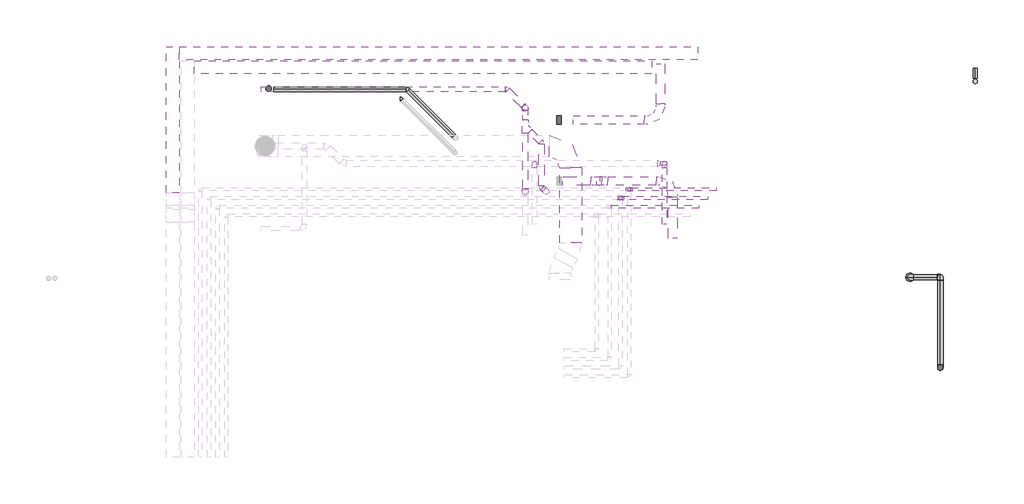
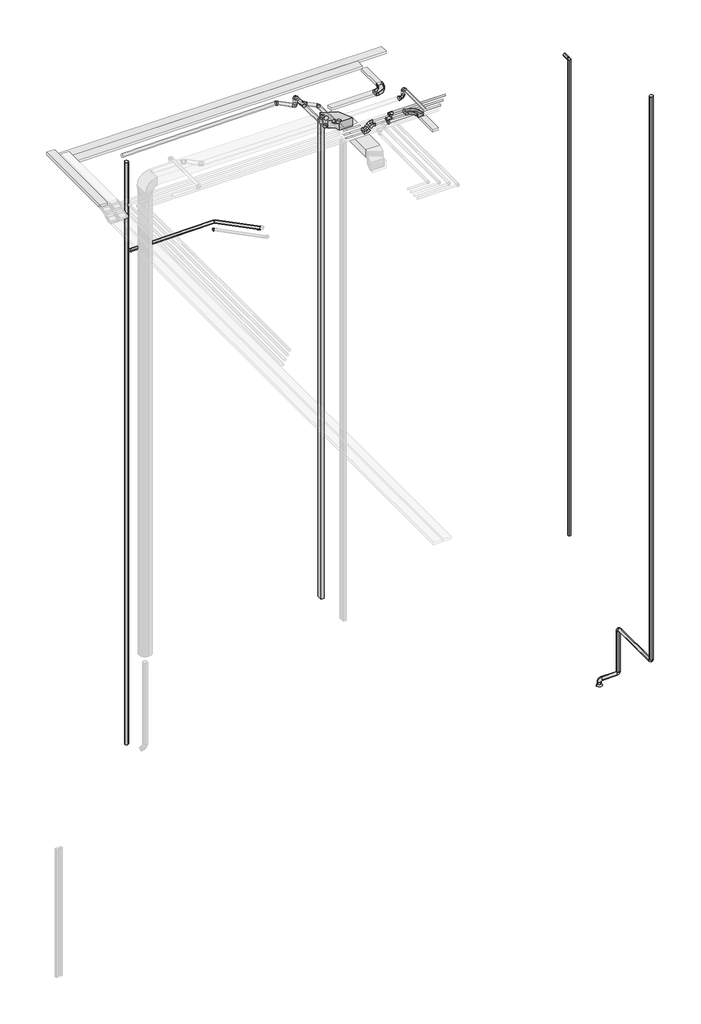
# One storey, part 5 of 5: 23 pipe segments, 19 pipe fittings, 10 cable carrier segments, 5 duct fittings, 4 cable carrier fittings, 3 duct segments.
"""IFC4 building model written with IfcOpenShell, lengths in millimetres."""

from ifc_helpers import new_model, si_unit, point, frame, frame_2d, origin, place, context, project, spatial, polyline, circle_curve, trimmed, segment, composite_curve, outline, extrude, transform, mapped, element, save
from ifc_brep_helpers import plane_surface, cylinder_surface, advanced_brep
from components import m_codo_horizontal_de_canal_el_01cafb92, m_codo_vertical_exterior_de_canal_sf_2009c7b2, m_codo_vertical_interior_de_canal_sf_1a39cf6d, duct_fitting_dce10068, m_codo_rectangular_radio_ext_1_w_abe20169, m_codo_redondo_ext_1_d_85067ab4, pipe_fitting_8e92d537, pipe_fitting_1b8f7a22, pipe_fitting_911ec8aa, pipe_fitting_7b861d32, pipe_fitting_67d104e7, pipe_fitting_3a68447e, pipe_fitting_550a3bf4, pipe_fitting_252a5053, pipe_fitting_9ffe5904, pipe_fitting_d40dc35a, pipe_fitting_c1e2db54, pipe_fitting_de21bee5, t_soldadura_a_enchufe_ff252817

model = new_model("IFC4")

# Units and contexts
model_context = context("Model", 3, world=origin())
ifc_project = project(units=[si_unit("LENGTHUNIT", "METRE", prefix="MILLI")], contexts=[model_context])

# Site, building, storey
site = spatial("IfcSite", under=ifc_project)
building = spatial("IfcBuilding", under=site)
storey = spatial("IfcBuildingStorey", under=building, Name="Nivell 06 P06_PP", Elevation=29910.0)

# Cable carrier fittings
placement = place(None, origin())
m_codo_horizontal_de_canal_el_shape = m_codo_horizontal_de_canal_el_01cafb92(model_context)
element("IfcCableCarrierFitting", 1, ObjectType="M_Codo horizontal de canal : EL", at=placement, inside=storey, context=model_context, shape_type="MappedRepresentation", body=[
    mapped(m_codo_horizontal_de_canal_el_shape, transform((16260.4560007, 7993.9729991, 32720.0), x_axis=(1.0, 0.0, 0.0), y_axis=(0.0, 1.0, 0.0), z_axis=(0.0, 0.0, 1.0))),
])
element("IfcCableCarrierFitting", 2, ObjectType="M_Codo horizontal de canal : SF", at=placement, inside=storey, context=model_context, shape_type="MappedRepresentation", body=[
    mapped(m_codo_horizontal_de_canal_el_shape, transform((16540.4560007, 6585.5467988, 32720.0), x_axis=(0.0, 1.0, 0.0), y_axis=(-1.0, 0.0, 0.0), z_axis=(0.0, 0.0, 1.0))),
])
m_codo_vertical_exterior_de_canal_sf_shape = m_codo_vertical_exterior_de_canal_sf_2009c7b2(model_context)
element("IfcCableCarrierFitting", 3, ObjectType="M_Codo vertical exterior de canal : SF", at=placement, inside=storey, context=model_context, shape_type="MappedRepresentation", body=[
    mapped(m_codo_vertical_exterior_de_canal_sf_shape, transform((14940.4560007, 6585.5467988, 32720.0), x_axis=(-1.0, 0.0, 0.0), y_axis=(0.0, 0.0, -1.0), z_axis=(0.0, -1.0, 0.0))),
])
m_codo_vertical_interior_de_canal_sf_shape = m_codo_vertical_interior_de_canal_sf_1a39cf6d(model_context)
element("IfcCableCarrierFitting", 4, ObjectType="M_Codo vertical interior de canal : SF", at=placement, inside=storey, context=model_context, shape_type="MappedRepresentation", body=[
    mapped(m_codo_vertical_interior_de_canal_sf_shape, transform((14749.5371698, 6585.5467988, 32529.0811691), x_axis=(-0.707106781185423, 0.0, -0.7071067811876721), y_axis=(-0.7071067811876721, 0.0, 0.707106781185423), z_axis=(0.0, 1.0, 0.0))),
])

# Cable carrier segments
element("IfcCableCarrierSegment", 5, ObjectType="EL", at=placement, inside=storey, context=model_context, shape_type="SweptSolid", body=[
    extrude(outline(polyline([(17114.9442475, 9685.9660196), (17114.9442475, 9385.9660196), (5158.2381883, 9385.9660196), (5158.2381883, 9685.9660196), (17114.9442475, 9685.9660196)])), frame((0.0, 0.0, 32960.0), z_axis=(0.0, 0.0, 1.0), x_axis=(1.0, 0.0, 0.0)), (0.0, 0.0, 1.0), 100.0),
])
element("IfcCableCarrierSegment", 6, ObjectType="EL", at=placement, inside=storey, context=model_context, shape_type="SweptSolid", body=[
    extrude(outline(polyline([(5507.0671065, 9056.732053), (5507.0671065, 9356.732053), (16057.0671065, 9356.732053), (16057.0671065, 9056.732053), (5507.0671065, 9056.732053)])), frame((0.0, 0.0, 32960.0), z_axis=(0.0, 0.0, 1.0), x_axis=(1.0, 0.0, 0.0)), (0.0, 0.0, 1.0), 100.0),
])
element("IfcCableCarrierSegment", 7, ObjectType="EL", at=placement, inside=storey, context=model_context, shape_type="SweptSolid", body=[
    extrude(outline(polyline([(13970.4560007, 8093.9729991), (13970.4560007, 7893.9729991), (13870.4560007, 7893.9729991), (13870.4560007, 8093.9729991), (13970.4560007, 8093.9729991)])), frame((0.0, 0.0, 13920.0), z_axis=(0.0, 0.0, 1.0), x_axis=(1.0, 0.0, 0.0)), (0.0, 0.0, 1.0), 18475.0),
])
element("IfcCableCarrierSegment", 8, ObjectType="EL", at=placement, inside=storey, context=model_context, shape_type="SweptSolid", body=[
    extrude(outline(polyline([(14245.4560007, 7893.9729991), (14245.4560007, 8093.9729991), (15885.4560007, 8093.9729991), (15885.4560007, 7893.9729991), (14245.4560007, 7893.9729991)])), frame((0.0, 0.0, 32670.0), z_axis=(0.0, 0.0, 1.0), x_axis=(1.0, 0.0, 0.0)), (0.0, 0.0, 1.0), 100.0),
])
element("IfcCableCarrierSegment", 9, ObjectType="EL", at=placement, inside=storey, context=model_context, shape_type="SweptSolid", body=[
    extrude(outline(polyline([(16360.4560007, 8368.9729991), (16160.4560007, 8368.9729991), (16160.4560007, 9293.9729991), (16360.4560007, 9293.9729991), (16360.4560007, 8368.9729991)])), frame((0.0, 0.0, 32670.0), z_axis=(0.0, 0.0, 1.0), x_axis=(1.0, 0.0, 0.0)), (0.0, 0.0, 1.0), 100.0),
])
element("IfcCableCarrierSegment", 10, ObjectType="EL", at=placement, inside=storey, context=model_context, shape_type="SweptSolid", body=[
    extrude(outline(polyline([(4858.2381883, 9685.9660196), (5158.2381883, 9685.9660196), (5158.2381883, 6318.3981673), (4858.2381883, 6318.3981673), (4858.2381883, 9685.9660196)])), frame((0.0, 0.0, 33160.0), z_axis=(0.0, 0.0, 1.0), x_axis=(1.0, 0.0, 0.0)), (0.0, 0.0, 1.0), 100.0),
])
element("IfcCableCarrierSegment", 11, ObjectType="SF", at=placement, inside=storey, context=model_context, shape_type="SweptSolid", body=[
    extrude(outline(polyline([(16165.4560007, 6685.5467988), (16165.4560007, 6485.5467988), (15040.3088145, 6485.5467988), (15040.3088145, 6685.5467988), (16165.4560007, 6685.5467988)])), frame((0.0, 0.0, 32670.0), z_axis=(0.0, 0.0, 1.0), x_axis=(1.0, 0.0, 0.0)), (0.0, 0.0, 1.0), 100.0),
])
element("IfcCableCarrierSegment", 12, ObjectType="SF", at=placement, inside=storey, context=model_context, shape_type="SweptSolid", body=[
    extrude(outline(polyline([(16640.4560007, 5265.5467988), (16440.4560007, 5265.5467988), (16440.4560007, 6210.5467988), (16640.4560007, 6210.5467988), (16640.4560007, 5265.5467988)])), frame((0.0, 0.0, 32670.0), z_axis=(0.0, 0.0, 1.0), x_axis=(1.0, 0.0, 0.0)), (0.0, 0.0, 1.0), 100.0),
])
element("IfcCableCarrierSegment", 13, ObjectType="SF", at=placement, inside=storey, context=model_context, shape_type="SweptSolid", body=[
    extrude(outline(polyline([(50.0000001, -11.8033989), (50.0000001, -211.8033989), (-50.0, -211.8033989), (-50.0, -11.8033989), (50.0000001, -11.8033989)])), frame((14820.1437715, 6697.3501977, 32599.6877708), z_axis=(0.7071067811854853, 0.0, 0.7071067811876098), x_axis=(0.7071067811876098, 0.0, -0.7071067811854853)), (0.0, 0.0, 1.0), 70.2943725),
])
element("IfcCableCarrierSegment", 14, ObjectType="SF", at=placement, inside=storey, context=model_context, shape_type="SweptSolid", body=[
    extrude(outline(polyline([(14649.6843561, 6685.5467988), (14649.6843561, 6485.5467988), (14009.5371698, 6485.5467988), (14009.5371698, 6685.5467988), (14649.6843561, 6685.5467988)])), frame((0.0, 0.0, 32479.0811691), z_axis=(0.0, 0.0, 1.0), x_axis=(1.0, 0.0, 0.0)), (0.0, 0.0, 1.0), 100.0),
])

# Duct fittings
duct_fitting_shape = duct_fitting_dce10068(model_context)
element("IfcDuctFitting", 15, ObjectType="M_Transición redonda - Ángulo : EXT_45 graus", at=placement, inside=storey, context=model_context, shape_type="MappedRepresentation", body=[
    mapped(duct_fitting_shape, transform((16250.5896993, 6992.2199701, 33015.0), x_axis=(-1.0, 0.0, 0.0), y_axis=(0.0, -1.0, 0.0), z_axis=(0.0, 0.0, 1.0))),
])
m_codo_rectangular_radio_ext_1_w_shape = m_codo_rectangular_radio_ext_1_w_abe20169(model_context)
element("IfcDuctFitting", 16, ObjectType="M_Codo rectangular - Radio : EXT_1 W", at=placement, inside=storey, context=model_context, shape_type="MappedRepresentation", body=[
    mapped(m_codo_rectangular_radio_ext_1_w_shape, transform((14190.3969782, 7392.2381133, 32785.0), x_axis=(0.0, 1.0, 0.0), y_axis=(-1.0, 0.0, 0.0), z_axis=(0.0, 0.0, 1.0))),
])
m_codo_redondo_ext_1_d_shape = m_codo_redondo_ext_1_d_85067ab4(model_context)
element("IfcDuctFitting", 17, ObjectType="M_Codo redondo : EXT_1 D", at=placement, inside=storey, context=model_context, shape_type="MappedRepresentation", body=[
    mapped(m_codo_redondo_ext_1_d_shape, transform((16350.5896993, 6992.2199701, 33360.0), x_axis=(0.0, 1.0, 0.0), y_axis=(0.0, 0.0, -1.0), z_axis=(-1.0, 0.0, 0.0))),
])
element("IfcDuctFitting", 18, ObjectType="M_Codo redondo : EXT_1 D", at=placement, inside=storey, context=model_context, shape_type="MappedRepresentation", body=[
    mapped(m_codo_redondo_ext_1_d_shape, transform((13350.5896993, 6992.2199701, 33360.0), x_axis=(0.0, 1.0, 0.0), y_axis=(0.0, 0.0, -1.0), z_axis=(-1.0, 0.0, 0.0))),
])
element("IfcDuctFitting", 19, ObjectType="M_Codo redondo : EXT_1 D", at=placement, inside=storey, context=model_context, shape_type="MappedRepresentation", body=[
    mapped(m_codo_redondo_ext_1_d_shape, transform((16350.5896993, 6992.2199701, 33015.0), x_axis=(0.0, 0.0, -1.0), y_axis=(-1.0, 0.0, 0.0), z_axis=(0.0, 1.0, 0.0))),
])

# Duct segments
element("IfcDuctSegment", 20, ObjectType="EXT_Planxa galvanitzada", at=placement, inside=storey, context=model_context, shape_type="SweptSolid", body=[
    extrude(outline(polyline([(13940.3969782, 6892.2381133), (14440.3969782, 6892.2381133), (14440.3969782, 5158.927841), (13940.3969782, 5158.927841), (13940.3969782, 6892.2381133)])), frame((0.0, 0.0, 32635.0), z_axis=(0.0, 0.0, 1.0), x_axis=(1.0, 0.0, 0.0)), (0.0, 0.0, 1.0), 300.0),
])
element("IfcDuctSegment", 21, ObjectType="EXT_Acer Galvanitzat - Rígid", at=placement, inside=storey, context=model_context, shape_type="SweptSolid", body=[
    extrude(outline(composite_curve([segment(trimmed(circle_curve(frame_2d((33360.0, 16350.5896993)), 50.0), [point((33360.0, 16300.5896993))], [point((33310.0, 16350.5896993))], False, "CARTESIAN"), True, "CONTINUOUS"), segment(trimmed(circle_curve(frame_2d((33360.0, 16350.5896993)), 50.0), [point((33310.0, 16350.5896993))], [point((33360.0, 16400.5896993))], False, "CARTESIAN"), True, "CONTINUOUS"), segment(trimmed(circle_curve(frame_2d((33360.0, 16350.5896993)), 50.0), [point((33360.0, 16400.5896993))], [point((33410.0, 16350.5896993))], False, "CARTESIAN"), True, "CONTINUOUS"), segment(trimmed(circle_curve(frame_2d((33360.0, 16350.5896993)), 50.0), [point((33410.0, 16350.5896993))], [point((33360.0, 16300.5896993))], False, "CARTESIAN"), True, "CONTINUOUS")], self_intersect=False)), frame((0.0, 5590.7319202, 0.0), z_axis=(0.0, 1.0, 0.0), x_axis=(0.0, 0.0, 1.0)), (0.0, 0.0, 1.0), 1301.48805),
])
element("IfcDuctSegment", 22, ObjectType="EXT_Acer Galvanitzat - Rígid", at=placement, inside=storey, context=model_context, shape_type="SweptSolid", body=[
    extrude(outline(composite_curve([segment(trimmed(circle_curve(frame_2d((16350.5896993, 6992.2199701)), 50.0), [point((16400.5896993, 6992.2199701))], [point((16350.5896993, 6942.2199701))], False, "CARTESIAN"), True, "CONTINUOUS"), segment(trimmed(circle_curve(frame_2d((16350.5896993, 6992.2199701)), 50.0), [point((16350.5896993, 6942.2199701))], [point((16300.5896993, 6992.2199701))], False, "CARTESIAN"), True, "CONTINUOUS"), segment(trimmed(circle_curve(frame_2d((16350.5896993, 6992.2199701)), 50.0), [point((16300.5896993, 6992.2199701))], [point((16350.5896993, 7042.2199701))], False, "CARTESIAN"), True, "CONTINUOUS"), segment(trimmed(circle_curve(frame_2d((16350.5896993, 6992.2199701)), 50.0), [point((16350.5896993, 7042.2199701))], [point((16400.5896993, 6992.2199701))], False, "CARTESIAN"), True, "CONTINUOUS")], self_intersect=False)), frame((0.0, 0.0, 33115.0), z_axis=(0.0, 0.0, 1.0), x_axis=(1.0, 0.0, 0.0)), (0.0, 0.0, 1.0), 145.0),
])

# Pipe fittings
pipe_fitting_shape = pipe_fitting_8e92d537(model_context)
element("IfcPipeFitting", 23, ObjectType="M_Codo - Genérico : Estándar", at=placement, inside=storey, context=model_context, shape_type="MappedRepresentation", body=[
    mapped(pipe_fitting_shape, transform((13625.7650432, 6334.0439605, 33391.2417957), x_axis=(0.7068974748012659, -0.7072453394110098, 0.009999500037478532), y_axis=(-0.0070482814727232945, 0.007093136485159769, 0.9999500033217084), z_axis=(-0.707280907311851, -0.7069326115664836, 2.925604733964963e-05))),
])
element("IfcPipeFitting", 24, ObjectType="M_Codo - Genérico : Estándar", at=placement, inside=storey, context=model_context, shape_type="MappedRepresentation", body=[
    mapped(pipe_fitting_shape, transform((22712.6804755, 2285.1274433, 11849.0374913), x_axis=(0.0, 0.0, -1.0), y_axis=(0.0, 1.0, 0.0), z_axis=(1.0, 0.0, 0.0))),
])
element("IfcPipeFitting", 25, ObjectType="M_Codo - Genérico : Estándar", at=placement, inside=storey, context=model_context, shape_type="MappedRepresentation", body=[
    mapped(pipe_fitting_shape, transform((22712.6804755, 4371.3835791, 11828.17493), x_axis=(0.0, 0.9999500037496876, -0.009999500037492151), y_axis=(0.0, -0.009999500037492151, -0.9999500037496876), z_axis=(-1.0, 0.0, 0.0))),
])
element("IfcPipeFitting", 26, ObjectType="M_Codo - Genérico : Estándar", at=placement, inside=storey, context=model_context, shape_type="MappedRepresentation", body=[
    mapped(pipe_fitting_shape, transform((22712.6804755, 4371.3835791, 10117.0021646), x_axis=(0.0, 0.0, -1.0), y_axis=(-1.0, 0.0, 0.0), z_axis=(0.0, 1.0, 0.0))),
])
element("IfcPipeFitting", 27, ObjectType="M_Codo - Genérico : Estándar", at=placement, inside=storey, context=model_context, shape_type="MappedRepresentation", body=[
    mapped(pipe_fitting_shape, transform((22012.4640122, 4371.3835791, 10110.0), x_axis=(-0.9999500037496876, 0.0, -0.009999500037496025), y_axis=(0.009999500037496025, 0.0, -0.9999500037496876), z_axis=(0.0, -1.0, 0.0))),
])
pipe_fitting_2_shape = pipe_fitting_1b8f7a22(model_context)
element("IfcPipeFitting", 28, ObjectType="M_Codo - Genérico : Estándar", at=placement, inside=storey, context=model_context, shape_type="MappedRepresentation", body=[
    mapped(pipe_fitting_2_shape, transform((13139.2009924, 8275.7321266, 33369.8166611), x_axis=(0.0, 0.0, 1.0), y_axis=(0.0, 1.0, 0.0), z_axis=(-1.0, 0.0, 0.0))),
])
pipe_fitting_3_shape = pipe_fitting_911ec8aa(model_context)
element("IfcPipeFitting", 29, ObjectType="M_Codo - Genérico : Estándar", at=placement, inside=storey, context=model_context, shape_type="MappedRepresentation", body=[
    mapped(pipe_fitting_3_shape, transform((13513.9151147, 7468.3565287, 33379.4427111), x_axis=(0.7070714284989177, -0.7070714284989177, 0.009999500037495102), y_axis=(0.707130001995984, 0.7070714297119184, -0.004141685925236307), z_axis=(-0.004141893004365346, 0.009999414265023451, 0.9999414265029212))),
])
pipe_fitting_4_shape = pipe_fitting_7b861d32(model_context)
element("IfcPipeFitting", 30, ObjectType="M_Codo - Genérico : Estándar", at=placement, inside=storey, context=model_context, shape_type="MappedRepresentation", body=[
    mapped(pipe_fitting_4_shape, transform((10278.5438771, 8480.6962959, 29114.6582407), x_axis=(-0.7070714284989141, 0.7070714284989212, -0.009999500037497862), y_axis=(-0.7070714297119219, -0.7071300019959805, -0.004141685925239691), z_axis=(-0.009999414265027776, 0.004141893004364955, 0.9999414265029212))),
])
pipe_fitting_5_shape = pipe_fitting_67d104e7(model_context)
element("IfcPipeFitting", 31, ObjectType="M_Codo - Genérico : Estándar", at=placement, inside=storey, context=model_context, shape_type="MappedRepresentation", body=[
    mapped(pipe_fitting_5_shape, transform((10418.5757792, 8697.1771083, 29244.2175715), x_axis=(0.9999500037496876, 0.0, 0.009999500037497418), y_axis=(4.141685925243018e-05, 0.9999914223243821, -0.004141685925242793), z_axis=(-0.009999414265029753, 0.004141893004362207, 0.9999414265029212))),
])
pipe_fitting_6_shape = pipe_fitting_3a68447e(model_context)
element("IfcPipeFitting", 32, ObjectType="M_Codo - Genérico : Estándar", at=placement, inside=storey, context=model_context, shape_type="MappedRepresentation", body=[
    mapped(pipe_fitting_6_shape, transform((15337.4352568, 6194.2427547, 32872.5), x_axis=(0.0, 0.0, -1.0), y_axis=(0.0, -1.0, 0.0), z_axis=(-1.0, 0.0, 0.0))),
])
element("IfcPipeFitting", 33, ObjectType="M_Codo - Genérico : Estándar", at=placement, inside=storey, context=model_context, shape_type="MappedRepresentation", body=[
    mapped(pipe_fitting_6_shape, transform((15537.4352568, 6394.2427547, 32872.5), x_axis=(0.0, 0.0, -1.0), y_axis=(0.0, -1.0, 0.0), z_axis=(-1.0, 0.0, 0.0))),
])
pipe_fitting_7_shape = pipe_fitting_550a3bf4(model_context)
element("IfcPipeFitting", 34, ObjectType="M_Codo - Genérico : Estándar", at=placement, inside=storey, context=model_context, shape_type="MappedRepresentation", body=[
    mapped(pipe_fitting_7_shape, transform((13513.9151444, 6445.9489006, 33389.65961), x_axis=(-0.706897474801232, 0.7072453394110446, -0.009999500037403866), y_axis=(-0.7073039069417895, -0.706897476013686, 0.004140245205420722), z_axis=(-0.004140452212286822, 0.00999941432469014, 0.9999414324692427))),
])
pipe_fitting_8_shape = pipe_fitting_252a5053(model_context)
element("IfcPipeFitting", 35, ObjectType="M_Te - Genérica : Estándar", at=placement, inside=storey, context=model_context, shape_type="MappedRepresentation", body=[
    mapped(pipe_fitting_8_shape, transform((13138.8606753, 7843.4109682, 33374.138219), x_axis=(0.0, -0.9999500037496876, 0.009999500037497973), y_axis=(0.9999914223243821, 4.1416859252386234e-05, 0.004141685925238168), z_axis=(-0.004141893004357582, 0.009999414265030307, 0.9999414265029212))),
])
pipe_fitting_9_shape = pipe_fitting_9ffe5904(model_context)
element("IfcPipeFitting", 36, ObjectType="M_Codo - Genérico : Estándar", at=placement, inside=storey, context=model_context, shape_type="MappedRepresentation", body=[
    mapped(pipe_fitting_9_shape, transform((13139.2009924, 6332.8732675, 33389.2453408), x_axis=(0.0, 0.0, -1.0), y_axis=(0.0, 1.0, 0.0), z_axis=(1.0, 0.0, 0.0))),
])
pipe_fitting_10_shape = pipe_fitting_d40dc35a(model_context)
element("IfcPipeFitting", 37, ObjectType="M_Codo - Genérico : Estándar", at=placement, inside=storey, context=model_context, shape_type="MappedRepresentation", body=[
    mapped(pipe_fitting_10_shape, transform((13139.1865496, 8275.7525513, 33019.6696406), x_axis=(-5.168866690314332e-05, 7.309667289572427e-05, -0.999999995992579), y_axis=(-0.7071068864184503, 0.7071066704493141, 8.823655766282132e-05), z_axis=(0.7071066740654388, 0.7071068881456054, 1.5137759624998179e-05))),
])
pipe_fitting_11_shape = pipe_fitting_c1e2db54(model_context)
element("IfcPipeFitting", 38, ObjectType="M_Codo - Genérico : Estándar", at=placement, inside=storey, context=model_context, shape_type="MappedRepresentation", body=[
    mapped(pipe_fitting_11_shape, transform((12713.6686954, 8701.2703054, 33013.6519099), x_axis=(-0.7070715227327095, 0.7070713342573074, -0.009999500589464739), y_axis=(-0.7070713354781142, -0.7071300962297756, -0.004141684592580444), z_axis=(-0.009999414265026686, 0.0041418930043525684, 0.9999414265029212))),
])
pipe_fitting_12_shape = pipe_fitting_de21bee5(model_context)
element("IfcPipeFitting", 39, ObjectType="M_Transición - Genérica : Estándar", at=placement, inside=storey, context=model_context, shape_type="MappedRepresentation", body=[
    mapped(pipe_fitting_12_shape, transform((22012.4640122, 4371.3835791, 9940.5385207), x_axis=(0.0, 0.0, -1.0), y_axis=(-1.0, 0.0, 0.0), z_axis=(0.0, 1.0, 0.0))),
])
t_soldadura_a_enchufe_shape = t_soldadura_a_enchufe_ff252817(model_context)
element("IfcPipeFitting", 40, ObjectType="T-Soldadura a enchufe : Estándar", at=placement, inside=storey, context=model_context, shape_type="MappedRepresentation", body=[
    mapped(t_soldadura_a_enchufe_shape, transform((15337.4352568, 6194.2427547, 33022.5), x_axis=(-1.0, 0.0, 0.0), y_axis=(0.0, 0.0, 1.0), z_axis=(0.0, 1.0, 0.0))),
])
element("IfcPipeFitting", 41, ObjectType="T-Soldadura a enchufe : Estándar", at=placement, inside=storey, context=model_context, shape_type="MappedRepresentation", body=[
    mapped(t_soldadura_a_enchufe_shape, transform((15537.4352568, 6394.2427547, 33022.5), x_axis=(-1.0, 0.0, 0.0), y_axis=(0.0, 0.0, 1.0), z_axis=(0.0, 1.0, 0.0))),
])

# Pipe segments
element("IfcPipeSegment", 42, ObjectType="PVC_Baixant", at=placement, inside=storey, context=model_context, shape_type="SweptSolid", body=[
    extrude(outline(composite_curve([segment(trimmed(circle_curve(frame_2d((22712.6804755, 2285.1274433)), 62.5), [point((22775.1804755, 2285.1274433))], [point((22712.6804755, 2222.6274433))], False, "CARTESIAN"), True, "CONTINUOUS"), segment(trimmed(circle_curve(frame_2d((22712.6804755, 2285.1274433)), 62.5), [point((22712.6804755, 2222.6274433))], [point((22650.1804755, 2285.1274433))], False, "CARTESIAN"), True, "CONTINUOUS"), segment(trimmed(circle_curve(frame_2d((22712.6804755, 2285.1274433)), 62.5), [point((22650.1804755, 2285.1274433))], [point((22712.6804755, 2347.6274433))], False, "CARTESIAN"), True, "CONTINUOUS"), segment(trimmed(circle_curve(frame_2d((22712.6804755, 2285.1274433)), 62.5), [point((22712.6804755, 2347.6274433))], [point((22775.1804755, 2285.1274433))], False, "CARTESIAN"), True, "CONTINUOUS")], self_intersect=False)), frame((0.0, 0.0, 11919.7641881), z_axis=(0.0, 0.0, 1.0), x_axis=(1.0, 0.0, 0.0)), (0.0, 0.0, 1.0), 21758.5466064),
])
element("IfcPipeSegment", 43, ObjectType="PVC_Baixant", at=placement, inside=storey, context=model_context, shape_type="AdvancedBrep", body=[
    advanced_brep(
    [(7057.4847904, 8638.7703161, 32957.0926596), (7056.8598506, 8701.2703161, 33019.5895351), (7057.4847907, 8763.7703161, 32957.0926596), (7058.1097306, 8701.2703161, 32894.5957841), (12684.081532, 8638.7703054, 33013.3560382), (12684.7064721, 8701.2703054, 32950.8591627), (12684.0815323, 8763.7703054, 33013.3560382), (12683.4565921, 8701.2703054, 33075.8529137)],
    [
        (0, 1, circle_curve(frame((7057.4847904, 8701.2703161, 32957.0926596), z_axis=(-0.9999500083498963, 0.0, -0.009999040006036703), x_axis=(0.0, -1.0, 1.905321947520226e-11)), 62.5)),
        (1, 2, circle_curve(frame((7057.4847906, 8701.2703161, 32957.0926596), z_axis=(-0.9999500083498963, 0.0, -0.009999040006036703), x_axis=(0.0, -1.0, 1.905321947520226e-11)), 62.5)),
        (2, 3, circle_curve(frame((7057.4847907, 8701.2703161, 32957.0926596), z_axis=(-0.9999500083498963, 0.0, -0.009999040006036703), x_axis=(0.0, -1.0, 1.905321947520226e-11)), 62.5)),
        (3, 0, circle_curve(frame((7057.4847906, 8701.2703161, 32957.0926596), z_axis=(-0.9999500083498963, 0.0, -0.009999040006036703), x_axis=(0.0, -1.0, 1.905321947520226e-11)), 62.5)),
        (4, 5, circle_curve(frame((12684.081532, 8701.2703161, 33013.3560382), z_axis=(0.9999500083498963, 0.0, 0.009999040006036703), x_axis=(0.0, -1.0, 1.905321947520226e-11)), 62.5000107)),
        (5, 6, circle_curve(frame((12684.0815321, 8701.2703161, 33013.3560382), z_axis=(0.9999500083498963, 0.0, 0.009999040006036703), x_axis=(0.0, -1.0, 1.905321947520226e-11)), 62.5)),
        (6, 7, circle_curve(frame((12684.0815323, 8701.2703161, 33013.3560382), z_axis=(0.9999500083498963, 0.0, 0.009999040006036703), x_axis=(0.0, -1.0, 1.905321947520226e-11)), 62.4999893)),
        (7, 4, circle_curve(frame((12684.0815321, 8701.2703161, 33013.3560382), z_axis=(0.9999500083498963, 0.0, 0.009999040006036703), x_axis=(0.0, -1.0, 1.905321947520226e-11)), 62.5)),
        (0, 4),
        (7, 1),
        (6, 2),
        (5, 3),
    ],
    [
        plane_surface(frame((7057.4847906, 8638.7703161, 32957.0926477), z_axis=(-0.9999500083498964, 1.9055048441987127e-09, -0.00999904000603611), x_axis=(0.00999904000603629, 1.9055925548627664e-07, -0.9999500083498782))),
        plane_surface(frame((12684.0815321, 8638.7703054, 33013.3560263), z_axis=(0.9999500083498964, -1.9055048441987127e-09, 0.00999904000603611), x_axis=(0.00999904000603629, 1.9055925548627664e-07, -0.9999500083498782))),
        cylinder_surface(frame((7057.4847906, 8701.2703161, 32957.0926596), z_axis=(-0.9999500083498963, 0.0, -0.009999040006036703), x_axis=(0.0, -1.0, 1.905321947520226e-11)), 62.5),
    ],
    [
        (0, [[1, 2, 3, 4]]),
        (1, [[5, 6, 7, 8]]),
        (2, [[-1, 9, -8, 10]]),
        (2, [[-2, -10, -7, 11]]),
        (2, [[-3, -11, -6, 12]]),
        (2, [[-4, -12, -5, -9]]),
    ],
),
])
element("IfcPipeSegment", 44, ObjectType="PVC_Baixant", at=placement, inside=storey, context=model_context, shape_type="SweptSolid", body=[
    extrude(outline(composite_curve([segment(trimmed(circle_curve(frame_2d((0.0, -62.5)), 62.5), [point((62.4968755, -61.8750623))], [point((0.6249377, -124.9968755))], False, "CARTESIAN"), True, "CONTINUOUS"), segment(trimmed(circle_curve(frame_2d((0.0, -62.5)), 62.5), [point((0.6249377, -124.9968755))], [point((-62.4968756, -63.1249377))], False, "CARTESIAN"), True, "CONTINUOUS"), segment(trimmed(circle_curve(frame_2d((0.0, -62.5)), 62.5), [point((-62.4968756, -63.1249377))], [point((-0.6249378, -0.0031245))], False, "CARTESIAN"), True, "CONTINUOUS"), segment(trimmed(circle_curve(frame_2d((0.0, -62.5)), 62.5), [point((-0.6249378, -0.0031245))], [point((62.4968755, -61.8750623))], False, "CARTESIAN"), True, "CONTINUOUS")], self_intersect=False)), frame((12734.589982, 8681.2328197, 33076.4415324), z_axis=(0.7070715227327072, -0.7070713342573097, 0.009999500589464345), x_axis=(0.707142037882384, 0.7070008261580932, -0.009998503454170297)), (0.0, 0.0, 1.0), 501.4940389),
])
element("IfcPipeSegment", 45, ObjectType="PVC_Baixant", at=placement, inside=storey, context=model_context, shape_type="SweptSolid", body=[
    extrude(outline(composite_curve([segment(trimmed(circle_curve(frame_2d((0.0, -55.0)), 55.0), [point((54.9972505, -54.450055))], [point((0.549945, -109.9972505))], False, "CARTESIAN"), True, "CONTINUOUS"), segment(trimmed(circle_curve(frame_2d((0.0, -55.0)), 55.0), [point((0.549945, -109.9972505))], [point((-54.9972505, -55.549945))], False, "CARTESIAN"), True, "CONTINUOUS"), segment(trimmed(circle_curve(frame_2d((0.0, -55.0)), 55.0), [point((-54.9972505, -55.549945))], [point((-0.549945, -0.0027495))], False, "CARTESIAN"), True, "CONTINUOUS"), segment(trimmed(circle_curve(frame_2d((0.0, -55.0)), 55.0), [point((-0.549945, -0.0027495))], [point((54.9972505, -54.450055))], False, "CARTESIAN"), True, "CONTINUOUS")], self_intersect=False)), frame((10437.0077448, 8679.5228824, 29299.4727397), z_axis=(0.7070714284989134, -0.707071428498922, 0.009999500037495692), x_axis=(0.7071421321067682, 0.7070007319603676, -0.009998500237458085)), (0.0, 0.0, 1.0), 1489.9424458),
])
element("IfcPipeSegment", 46, ObjectType="PVC_Baixant", at=placement, inside=storey, context=model_context, shape_type="SweptSolid", body=[
    extrude(outline(composite_curve([segment(trimmed(circle_curve(frame_2d((0.0, -55.0)), 55.0), [point((0.0, 0.0))], [point((55.0, -55.0))], False, "CARTESIAN"), True, "CONTINUOUS"), segment(trimmed(circle_curve(frame_2d((0.0, -55.0)), 55.0), [point((55.0, -55.0))], [point((0.0, -110.0))], False, "CARTESIAN"), True, "CONTINUOUS"), segment(trimmed(circle_curve(frame_2d((0.0, -55.0)), 55.0), [point((0.0, -110.0))], [point((-55.0, -55.0))], False, "CARTESIAN"), True, "CONTINUOUS"), segment(trimmed(circle_curve(frame_2d((0.0, -55.0)), 55.0), [point((-55.0, -55.0))], [point((0.0, 0.0))], False, "CARTESIAN"), True, "CONTINUOUS")], self_intersect=False)), frame((7340.3329326, 8752.1771083, 29213.4351431), z_axis=(0.9999500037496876, 0.0, 0.009999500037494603), x_axis=(0.009999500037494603, 0.0, -0.9999500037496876)), (0.0, 0.0, 1.0), 3052.3287157),
])
element("IfcPipeSegment", 47, ObjectType="PVC_Baixant", at=placement, inside=storey, context=model_context, shape_type="SweptSolid", body=[
    extrude(outline(composite_curve([segment(trimmed(circle_curve(frame_2d((7223.1222182, 8717.5765425)), 62.5), [point((7285.6222182, 8717.5765425))], [point((7223.1222182, 8655.0765425))], False, "CARTESIAN"), True, "CONTINUOUS"), segment(trimmed(circle_curve(frame_2d((7223.1222182, 8717.5765425)), 62.5), [point((7223.1222182, 8655.0765425))], [point((7160.6222182, 8717.5765425))], False, "CARTESIAN"), True, "CONTINUOUS"), segment(trimmed(circle_curve(frame_2d((7223.1222182, 8717.5765425)), 62.5), [point((7160.6222182, 8717.5765425))], [point((7223.1222182, 8780.0765425))], False, "CARTESIAN"), True, "CONTINUOUS"), segment(trimmed(circle_curve(frame_2d((7223.1222182, 8717.5765425)), 62.5), [point((7223.1222182, 8780.0765425))], [point((7285.6222182, 8717.5765425))], False, "CARTESIAN"), True, "CONTINUOUS")], self_intersect=False)), frame((0.0, 0.0, 10167.426454), z_axis=(0.0, 0.0, 1.0), x_axis=(1.0, 0.0, 0.0)), (0.0, 0.0, 1.0), 22496.3307809),
])
element("IfcPipeSegment", 48, ObjectType="PPR_CLI_Aquatherm Blue Pipe", at=placement, inside=storey, context=model_context, shape_type="SweptSolid", body=[
    extrude(outline(composite_curve([segment(trimmed(circle_curve(frame_2d((5994.2427547, 33022.5)), 37.5), [point((5956.7427547, 33022.5))], [point((5994.2427547, 33060.0))], False, "CARTESIAN"), True, "CONTINUOUS"), segment(trimmed(circle_curve(frame_2d((5994.2427547, 33022.5)), 37.5), [point((5994.2427547, 33060.0))], [point((6031.7427547, 33022.5))], False, "CARTESIAN"), True, "CONTINUOUS"), segment(trimmed(circle_curve(frame_2d((5994.2427547, 33022.5)), 37.5), [point((6031.7427547, 33022.5))], [point((5994.2427547, 32985.0))], False, "CARTESIAN"), True, "CONTINUOUS"), segment(trimmed(circle_curve(frame_2d((5994.2427547, 33022.5)), 37.5), [point((5994.2427547, 32985.0))], [point((5956.7427547, 33022.5))], False, "CARTESIAN"), True, "CONTINUOUS")], self_intersect=False)), frame((15125.9352568, 0.0, 0.0), z_axis=(1.0, 0.0, 0.0), x_axis=(0.0, 1.0, 0.0)), (0.0, 0.0, 1.0), 2016.3840359),
])
element("IfcPipeSegment", 49, ObjectType="PPR_CLI_Aquatherm Blue Pipe", at=placement, inside=storey, context=model_context, shape_type="SweptSolid", body=[
    extrude(outline(composite_curve([segment(trimmed(circle_curve(frame_2d((6194.2427547, 33022.5)), 37.5), [point((6156.7427547, 33022.5))], [point((6194.2427547, 33060.0))], False, "CARTESIAN"), True, "CONTINUOUS"), segment(trimmed(circle_curve(frame_2d((6194.2427547, 33022.5)), 37.5), [point((6194.2427547, 33060.0))], [point((6231.7427547, 33022.5))], False, "CARTESIAN"), True, "CONTINUOUS"), segment(trimmed(circle_curve(frame_2d((6194.2427547, 33022.5)), 37.5), [point((6231.7427547, 33022.5))], [point((6194.2427547, 32985.0))], False, "CARTESIAN"), True, "CONTINUOUS"), segment(trimmed(circle_curve(frame_2d((6194.2427547, 33022.5)), 37.5), [point((6194.2427547, 32985.0))], [point((6156.7427547, 33022.5))], False, "CARTESIAN"), True, "CONTINUOUS")], self_intersect=False)), frame((15375.9352568, 0.0, 0.0), z_axis=(1.0, 0.0, 0.0), x_axis=(0.0, 1.0, 0.0)), (0.0, 0.0, 1.0), 1966.3840359),
])
element("IfcPipeSegment", 50, ObjectType="PPR_CLI_Aquatherm Blue Pipe", at=placement, inside=storey, context=model_context, shape_type="SweptSolid", body=[
    extrude(outline(composite_curve([segment(trimmed(circle_curve(frame_2d((6394.2427547, 33022.5)), 37.5), [point((6356.7427547, 33022.5))], [point((6394.2427547, 33060.0))], False, "CARTESIAN"), True, "CONTINUOUS"), segment(trimmed(circle_curve(frame_2d((6394.2427547, 33022.5)), 37.5), [point((6394.2427547, 33060.0))], [point((6431.7427547, 33022.5))], False, "CARTESIAN"), True, "CONTINUOUS"), segment(trimmed(circle_curve(frame_2d((6394.2427547, 33022.5)), 37.5), [point((6431.7427547, 33022.5))], [point((6394.2427547, 32985.0))], False, "CARTESIAN"), True, "CONTINUOUS"), segment(trimmed(circle_curve(frame_2d((6394.2427547, 33022.5)), 37.5), [point((6394.2427547, 32985.0))], [point((6356.7427547, 33022.5))], False, "CARTESIAN"), True, "CONTINUOUS")], self_intersect=False)), frame((15575.9352568, 0.0, 0.0), z_axis=(1.0, 0.0, 0.0), x_axis=(0.0, 1.0, 0.0)), (0.0, 0.0, 1.0), 1966.3840359),
])
element("IfcPipeSegment", 51, ObjectType="PPR_CLI_Aquatherm Blue Pipe", at=placement, inside=storey, context=model_context, shape_type="SweptSolid", body=[
    extrude(outline(composite_curve([segment(trimmed(circle_curve(frame_2d((15337.4352568, 6194.2427547)), 37.5), [point((15374.9352568, 6194.2427547))], [point((15337.4352568, 6156.7427547))], False, "CARTESIAN"), True, "CONTINUOUS"), segment(trimmed(circle_curve(frame_2d((15337.4352568, 6194.2427547)), 37.5), [point((15337.4352568, 6156.7427547))], [point((15299.9352568, 6194.2427547))], False, "CARTESIAN"), True, "CONTINUOUS"), segment(trimmed(circle_curve(frame_2d((15337.4352568, 6194.2427547)), 37.5), [point((15299.9352568, 6194.2427547))], [point((15337.4352568, 6231.7427547))], False, "CARTESIAN"), True, "CONTINUOUS"), segment(trimmed(circle_curve(frame_2d((15337.4352568, 6194.2427547)), 37.5), [point((15337.4352568, 6231.7427547))], [point((15374.9352568, 6194.2427547))], False, "CARTESIAN"), True, "CONTINUOUS")], self_intersect=False)), frame((0.0, 0.0, 32917.9375), z_axis=(0.0, 0.0, 1.0), x_axis=(1.0, 0.0, 0.0)), (0.0, 0.0, 1.0), 66.0625),
])
element("IfcPipeSegment", 52, ObjectType="PPR_CLI_Aquatherm Blue Pipe", at=placement, inside=storey, context=model_context, shape_type="SweptSolid", body=[
    extrude(outline(composite_curve([segment(trimmed(circle_curve(frame_2d((15537.4352568, 6394.2427547)), 37.5), [point((15574.9352568, 6394.2427547))], [point((15537.4352568, 6356.7427547))], False, "CARTESIAN"), True, "CONTINUOUS"), segment(trimmed(circle_curve(frame_2d((15537.4352568, 6394.2427547)), 37.5), [point((15537.4352568, 6356.7427547))], [point((15499.9352568, 6394.2427547))], False, "CARTESIAN"), True, "CONTINUOUS"), segment(trimmed(circle_curve(frame_2d((15537.4352568, 6394.2427547)), 37.5), [point((15499.9352568, 6394.2427547))], [point((15537.4352568, 6431.7427547))], False, "CARTESIAN"), True, "CONTINUOUS"), segment(trimmed(circle_curve(frame_2d((15537.4352568, 6394.2427547)), 37.5), [point((15537.4352568, 6431.7427547))], [point((15574.9352568, 6394.2427547))], False, "CARTESIAN"), True, "CONTINUOUS")], self_intersect=False)), frame((0.0, 0.0, 32917.9375), z_axis=(0.0, 0.0, 1.0), x_axis=(1.0, 0.0, 0.0)), (0.0, 0.0, 1.0), 66.0625),
])
element("IfcPipeSegment", 53, ObjectType="AN_CI", at=placement, inside=storey, context=model_context, shape_type="SweptSolid", body=[
    extrude(outline(composite_curve([segment(trimmed(circle_curve(frame_2d((23514.9203808, 8881.949549)), 50.8), [point((23565.7203808, 8881.949549))], [point((23514.9203808, 8831.149549))], False, "CARTESIAN"), True, "CONTINUOUS"), segment(trimmed(circle_curve(frame_2d((23514.9203808, 8881.949549)), 50.8), [point((23514.9203808, 8831.149549))], [point((23464.1203808, 8881.949549))], False, "CARTESIAN"), True, "CONTINUOUS"), segment(trimmed(circle_curve(frame_2d((23514.9203808, 8881.949549)), 50.8), [point((23464.1203808, 8881.949549))], [point((23514.9203808, 8932.749549))], False, "CARTESIAN"), True, "CONTINUOUS"), segment(trimmed(circle_curve(frame_2d((23514.9203808, 8881.949549)), 50.8), [point((23514.9203808, 8932.749549))], [point((23565.7203808, 8881.949549))], False, "CARTESIAN"), True, "CONTINUOUS")], self_intersect=False)), frame((0.0, 0.0, 12435.6093458), z_axis=(0.0, 0.0, 1.0), x_axis=(1.0, 0.0, 0.0)), (0.0, 0.0, 1.0), 18380.0),
])
element("IfcPipeSegment", 54, ObjectType="AN_CI", at=placement, inside=storey, context=model_context, shape_type="SweptSolid", body=[
    extrude(outline(composite_curve([segment(trimmed(circle_curve(frame_2d((0.0, 50.8)), 50.8), [point((0.0, 101.5999999))], [point((50.8, 50.8))], False, "CARTESIAN"), True, "CONTINUOUS"), segment(trimmed(circle_curve(frame_2d((0.0, 50.8)), 50.8), [point((50.8, 50.8))], [point((0.0, 0.0))], False, "CARTESIAN"), True, "CONTINUOUS"), segment(trimmed(circle_curve(frame_2d((0.0, 50.8)), 50.8), [point((0.0, 0.0))], [point((-50.8, 50.8))], False, "CARTESIAN"), True, "CONTINUOUS"), segment(trimmed(circle_curve(frame_2d((0.0, 50.8)), 50.8), [point((-50.8, 50.8))], [point((0.0, 101.5999999))], False, "CARTESIAN"), True, "CONTINUOUS")], self_intersect=False)), frame((23464.1193187, 8952.9286663, 30810.0), z_axis=(-2.0856058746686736e-05, 0.9999999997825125, 0.0), x_axis=(0.0, 0.0, 1.0)), (0.0, 0.0, 1.0), 227.6125),
])
element("IfcPipeSegment", 55, ObjectType="PVC_Baixant", at=placement, inside=storey, context=model_context, shape_type="SweptSolid", body=[
    extrude(outline(composite_curve([segment(trimmed(circle_curve(frame_2d((0.0, -62.5)), 62.5), [point((62.4968786, -61.8753698))], [point((0.6246302, -124.9968786))], False, "CARTESIAN"), True, "CONTINUOUS"), segment(trimmed(circle_curve(frame_2d((0.0, -62.5)), 62.5), [point((0.6246302, -124.9968786))], [point((-62.4968786, -63.1246301))], False, "CARTESIAN"), True, "CONTINUOUS"), segment(trimmed(circle_curve(frame_2d((0.0, -62.5)), 62.5), [point((-62.4968786, -63.1246301))], [point((-0.6246302, -0.0031214))], False, "CARTESIAN"), True, "CONTINUOUS"), segment(trimmed(circle_curve(frame_2d((0.0, -62.5)), 62.5), [point((-0.6246302, -0.0031214))], [point((62.4968786, -61.8753698))], False, "CARTESIAN"), True, "CONTINUOUS")], self_intersect=False)), frame((13534.8240092, 6425.9133244, 33452.4491328), z_axis=(0.7068974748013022, -0.7072453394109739, 0.00999950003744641), x_axis=(0.7073160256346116, 0.7068268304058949, -0.00999358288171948)), (0.0, 0.0, 1.0), 57.9214271),
])
element("IfcPipeSegment", 56, ObjectType="PVC_Baixant", at=placement, inside=storey, context=model_context, shape_type="SweptSolid", body=[
    extrude(outline(composite_curve([segment(trimmed(circle_curve(frame_2d((0.0, 62.5000001)), 62.5), [point((-62.5, 62.5000003))], [point((3e-07, 125.0))], False, "CARTESIAN"), True, "CONTINUOUS"), segment(trimmed(circle_curve(frame_2d((0.0, 62.5000001)), 62.5), [point((3e-07, 125.0))], [point((62.5, 62.4999998))], False, "CARTESIAN"), True, "CONTINUOUS"), segment(trimmed(circle_curve(frame_2d((0.0, 62.5000001)), 62.5), [point((62.5, 62.4999998))], [point((-2e-07, 0.0))], False, "CARTESIAN"), True, "CONTINUOUS"), segment(trimmed(circle_curve(frame_2d((0.0, 62.5000001)), 62.5), [point((-2e-07, 0.0))], [point((-62.5, 62.5000003))], False, "CARTESIAN"), True, "CONTINUOUS")], self_intersect=False)), frame((13139.190205, 8213.247382, 33090.3855279), z_axis=(5.168866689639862e-05, -7.309667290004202e-05, 0.9999999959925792), x_axis=(0.999999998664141, 3.7782683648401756e-09, -5.168866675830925e-05)), (0.0, 0.0, 1.0), 208.6998687),
])
element("IfcPipeSegment", 57, ObjectType="PVC_Baixant", at=placement, inside=storey, context=model_context, shape_type="SweptSolid", body=[
    extrude(outline(composite_curve([segment(trimmed(circle_curve(frame_2d((0.0, -62.5)), 62.5), [point((62.5, -62.5))], [point((0.0, -125.0))], False, "CARTESIAN"), True, "CONTINUOUS"), segment(trimmed(circle_curve(frame_2d((0.0, -62.5)), 62.5), [point((0.0, -125.0))], [point((-62.5, -62.5))], False, "CARTESIAN"), True, "CONTINUOUS"), segment(trimmed(circle_curve(frame_2d((0.0, -62.5)), 62.5), [point((-62.5, -62.5))], [point((0.0, 0.0))], False, "CARTESIAN"), True, "CONTINUOUS"), segment(trimmed(circle_curve(frame_2d((0.0, -62.5)), 62.5), [point((0.0, 0.0))], [point((62.5, -62.5))], False, "CARTESIAN"), True, "CONTINUOUS")], self_intersect=False)), frame((13139.2009924, 8205.6339346, 33433.0207679), z_axis=(0.0, -0.9999500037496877, 0.009999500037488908), x_axis=(1.0, 0.0, 0.0)), (0.0, 0.0, 1.0), 204.4717309),
])
element("IfcPipeSegment", 58, ObjectType="PVC_Baixant", at=placement, inside=storey, context=model_context, shape_type="SweptSolid", body=[
    extrude(outline(composite_curve([segment(trimmed(circle_curve(frame_2d((0.0, -62.5)), 62.5), [point((62.5, -62.5))], [point((0.0, -125.0))], False, "CARTESIAN"), True, "CONTINUOUS"), segment(trimmed(circle_curve(frame_2d((0.0, -62.5)), 62.5), [point((0.0, -125.0))], [point((-62.5, -62.5))], False, "CARTESIAN"), True, "CONTINUOUS"), segment(trimmed(circle_curve(frame_2d((0.0, -62.5)), 62.5), [point((-62.5, -62.5))], [point((0.0, 0.0))], False, "CARTESIAN"), True, "CONTINUOUS"), segment(trimmed(circle_curve(frame_2d((0.0, -62.5)), 62.5), [point((0.0, 0.0))], [point((62.5, -62.5))], False, "CARTESIAN"), True, "CONTINUOUS")], self_intersect=False)), frame((13513.9151147, 7439.393863, 33442.2354627), z_axis=(3.0848715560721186e-08, -0.9999500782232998, 0.00999204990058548), x_axis=(0.9999999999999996, 3.0847175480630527e-08, -3.082476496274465e-10)), (0.0, 0.0, 1.0), 963.2916718),
])
element("IfcPipeSegment", 59, ObjectType="PVC_Baixant", at=placement, inside=storey, context=model_context, shape_type="SweptSolid", body=[
    extrude(outline(composite_curve([segment(trimmed(circle_curve(frame_2d((0.0, -62.5)), 62.5), [point((62.4968748, -61.8749859))], [point((0.6250141, -124.9968748))], False, "CARTESIAN"), True, "CONTINUOUS"), segment(trimmed(circle_curve(frame_2d((0.0, -62.5)), 62.5), [point((0.6250141, -124.9968748))], [point((-62.4968748, -63.1250141))], False, "CARTESIAN"), True, "CONTINUOUS"), segment(trimmed(circle_curve(frame_2d((0.0, -62.5)), 62.5), [point((-62.4968748, -63.1250141))], [point((-0.6250142, -0.0031252))], False, "CARTESIAN"), True, "CONTINUOUS"), segment(trimmed(circle_curve(frame_2d((0.0, -62.5)), 62.5), [point((-0.6250142, -0.0031252))], [point((62.4968748, -61.8749859))], False, "CARTESIAN"), True, "CONTINUOUS")], self_intersect=False)), frame((13249.972941, 7733.1826059, 33438.2033331), z_axis=(0.7070714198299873, -0.7070714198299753, 0.010000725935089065), x_axis=(0.7071421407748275, 0.7070007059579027, -0.009999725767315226)), (0.0, 0.0, 1.0), 343.7006209),
])
element("IfcPipeSegment", 60, ObjectType="PVC_Baixant", at=placement, inside=storey, context=model_context, shape_type="SweptSolid", body=[
    extrude(outline(composite_curve([segment(trimmed(circle_curve(frame_2d((0.0, 62.5)), 62.5), [point((-62.5, 62.5))], [point((0.0, 125.0))], False, "CARTESIAN"), True, "CONTINUOUS"), segment(trimmed(circle_curve(frame_2d((0.0, 62.5)), 62.5), [point((0.0, 125.0))], [point((62.5, 62.5))], False, "CARTESIAN"), True, "CONTINUOUS"), segment(trimmed(circle_curve(frame_2d((0.0, 62.5)), 62.5), [point((62.5, 62.5))], [point((0.0, 0.0))], False, "CARTESIAN"), True, "CONTINUOUS"), segment(trimmed(circle_curve(frame_2d((0.0, 62.5)), 62.5), [point((0.0, 0.0))], [point((-62.5, 62.5))], False, "CARTESIAN"), True, "CONTINUOUS")], self_intersect=False)), frame((13139.2009924, 7685.6495429, 33313.214362), z_axis=(0.0, -0.9999500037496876, 0.009999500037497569), x_axis=(1.0, 0.0, 0.0)), (0.0, 0.0, 1.0), 1282.7423078),
])
element("IfcPipeSegment", 61, ObjectType="PVC_Baixant", at=placement, inside=storey, context=model_context, shape_type="SweptSolid", body=[
    extrude(outline(composite_curve([segment(trimmed(circle_curve(frame_2d((0.0, -62.5)), 62.5), [point((62.5, -62.5))], [point((0.0, -125.0))], False, "CARTESIAN"), True, "CONTINUOUS"), segment(trimmed(circle_curve(frame_2d((0.0, -62.5)), 62.5), [point((0.0, -125.0))], [point((-62.5, -62.5))], False, "CARTESIAN"), True, "CONTINUOUS"), segment(trimmed(circle_curve(frame_2d((0.0, -62.5)), 62.5), [point((-62.5, -62.5))], [point((0.0, 0.0))], False, "CARTESIAN"), True, "CONTINUOUS"), segment(trimmed(circle_curve(frame_2d((0.0, -62.5)), 62.5), [point((0.0, 0.0))], [point((62.5, -62.5))], False, "CARTESIAN"), True, "CONTINUOUS")], self_intersect=False)), frame((22712.6804755, 4301.2853871, 11891.3790368), z_axis=(0.0, -0.9999500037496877, 0.009999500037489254), x_axis=(1.0, 0.0, 0.0)), (0.0, 0.0, 1.0), 1944.9070525),
])
element("IfcPipeSegment", 62, ObjectType="PVC_Baixant", at=placement, inside=storey, context=model_context, shape_type="SweptSolid", body=[
    extrude(outline(composite_curve([segment(trimmed(circle_curve(frame_2d((0.0, -62.5)), 62.5), [point((0.0, 0.0))], [point((62.5, -62.5))], False, "CARTESIAN"), True, "CONTINUOUS"), segment(trimmed(circle_curve(frame_2d((0.0, -62.5)), 62.5), [point((62.5, -62.5))], [point((0.0, -125.0))], False, "CARTESIAN"), True, "CONTINUOUS"), segment(trimmed(circle_curve(frame_2d((0.0, -62.5)), 62.5), [point((0.0, -125.0))], [point((-62.5, -62.5))], False, "CARTESIAN"), True, "CONTINUOUS"), segment(trimmed(circle_curve(frame_2d((0.0, -62.5)), 62.5), [point((-62.5, -62.5))], [point((0.0, 0.0))], False, "CARTESIAN"), True, "CONTINUOUS")], self_intersect=False)), frame((22083.187173, 4433.8835791, 10110.7072316), z_axis=(0.9999500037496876, 0.0, 0.009999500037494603), x_axis=(0.009999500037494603, 0.0, -0.9999500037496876)), (0.0, 0.0, 1.0), 558.7980797),
])
element("IfcPipeSegment", 63, ObjectType="PVC_Baixant", at=placement, inside=storey, context=model_context, shape_type="SweptSolid", body=[
    extrude(outline(composite_curve([segment(trimmed(circle_curve(frame_2d((22712.6804755, 4371.3835791)), 62.5), [point((22775.1804755, 4371.3835791))], [point((22712.6804755, 4308.8835791))], False, "CARTESIAN"), True, "CONTINUOUS"), segment(trimmed(circle_curve(frame_2d((22712.6804755, 4371.3835791)), 62.5), [point((22712.6804755, 4308.8835791))], [point((22650.1804755, 4371.3835791))], False, "CARTESIAN"), True, "CONTINUOUS"), segment(trimmed(circle_curve(frame_2d((22712.6804755, 4371.3835791)), 62.5), [point((22650.1804755, 4371.3835791))], [point((22712.6804755, 4433.8835791))], False, "CARTESIAN"), True, "CONTINUOUS"), segment(trimmed(circle_curve(frame_2d((22712.6804755, 4371.3835791)), 62.5), [point((22712.6804755, 4433.8835791))], [point((22775.1804755, 4371.3835791))], False, "CARTESIAN"), True, "CONTINUOUS")], self_intersect=False)), frame((0.0, 0.0, 10187.7288614), z_axis=(0.0, 0.0, 1.0), x_axis=(1.0, 0.0, 0.0)), (0.0, 0.0, 1.0), 1569.7193718),
])
element("IfcPipeSegment", 64, ObjectType="PVC_Baixant", at=placement, inside=storey, context=model_context, shape_type="SweptSolid", body=[
    extrude(outline(composite_curve([segment(trimmed(circle_curve(frame_2d((22012.4640122, 4371.3835791)), 62.5), [point((22074.9640122, 4371.3835791))], [point((22012.4640122, 4308.8835791))], False, "CARTESIAN"), True, "CONTINUOUS"), segment(trimmed(circle_curve(frame_2d((22012.4640122, 4371.3835791)), 62.5), [point((22012.4640122, 4308.8835791))], [point((21949.9640122, 4371.3835791))], False, "CARTESIAN"), True, "CONTINUOUS"), segment(trimmed(circle_curve(frame_2d((22012.4640122, 4371.3835791)), 62.5), [point((21949.9640122, 4371.3835791))], [point((22012.4640122, 4433.8835791))], False, "CARTESIAN"), True, "CONTINUOUS"), segment(trimmed(circle_curve(frame_2d((22012.4640122, 4371.3835791)), 62.5), [point((22012.4640122, 4433.8835791))], [point((22074.9640122, 4371.3835791))], False, "CARTESIAN"), True, "CONTINUOUS")], self_intersect=False)), frame((0.0, 0.0, 9940.5385207), z_axis=(0.0, 0.0, 1.0), x_axis=(1.0, 0.0, 0.0)), (0.0, 0.0, 1.0), 98.7347826),
])

save(model, "model.ifc")
